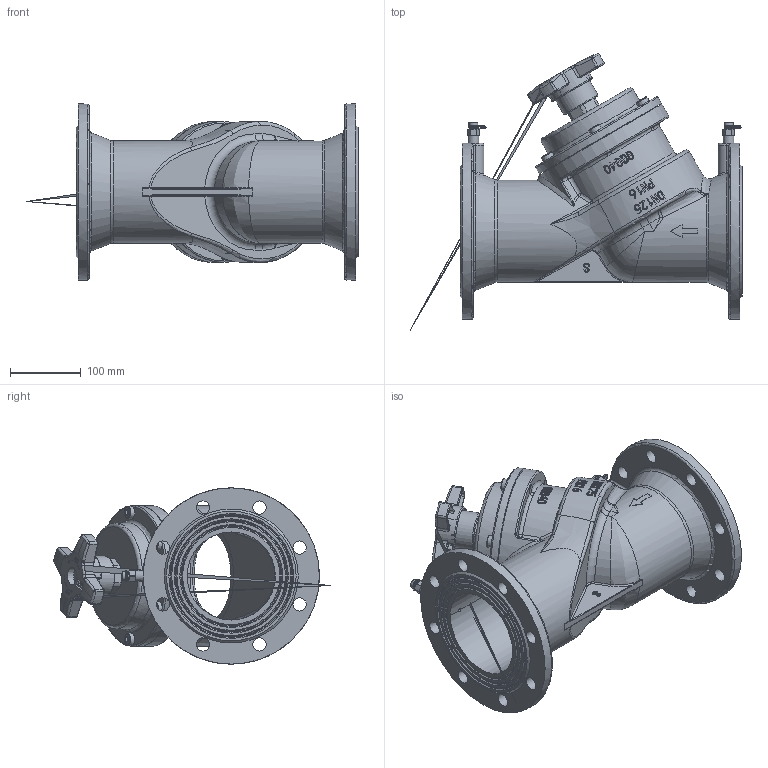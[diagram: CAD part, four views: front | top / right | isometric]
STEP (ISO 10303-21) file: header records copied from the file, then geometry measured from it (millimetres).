
FILE_DESCRIPTION(('STEP AP203'), '1');
FILE_NAME('3D_347-125-16_1', '', ('UNSPECIFIED'), ('UNSPECIFIED'), 'C3D Converter', 'C3D Toolkit', '');
FILE_SCHEMA(('CONFIG_CONTROL_DESIGN'));
Length unit declared in the file: millimetre
Bounding box: 470.97 x 392.43 x 250 mm (x, y, z)
Volume: 4543396.3 mm3; surface area: 803900.7 mm2
Topology: 1 solids, 5 shells, 1713 faces, 4514 edges, 2870 vertices
Faces by surface type: plane 716, bspline 416, cylinder 389, torus 131, cone 43, sphere 18
Full cylindrical faces by diameter (mm): 3.5 x6, 5 x1, 8 x2, 11 x3, 12 x6, 12.8 x4, 14 x6, 15 x2, 19 x16, 20.3 x3, 24.6 x2, 25 x1, 26 x1, 28.4 x1, 36 x1, 36.5 x1, 43 x1, 56 x1, 61.5 x1, 125 x1, 126 x2, 131.4 x2, 143 x2, 145 x1, 150 x1, 200 x2, 250 x2
Entity records: 186341 total; most frequent: CARTESIAN_POINT 134601, ORIENTED_EDGE 8688, DIRECTION 6433, EDGE_CURVE 4344, VERTEX_POINT 2864, AXIS2_PLACEMENT_3D 2321, EDGE_LOOP 2044, FACE_BOUND 1847
